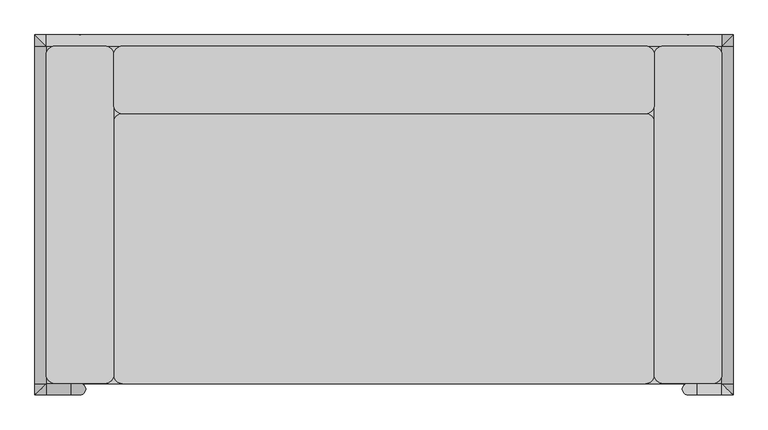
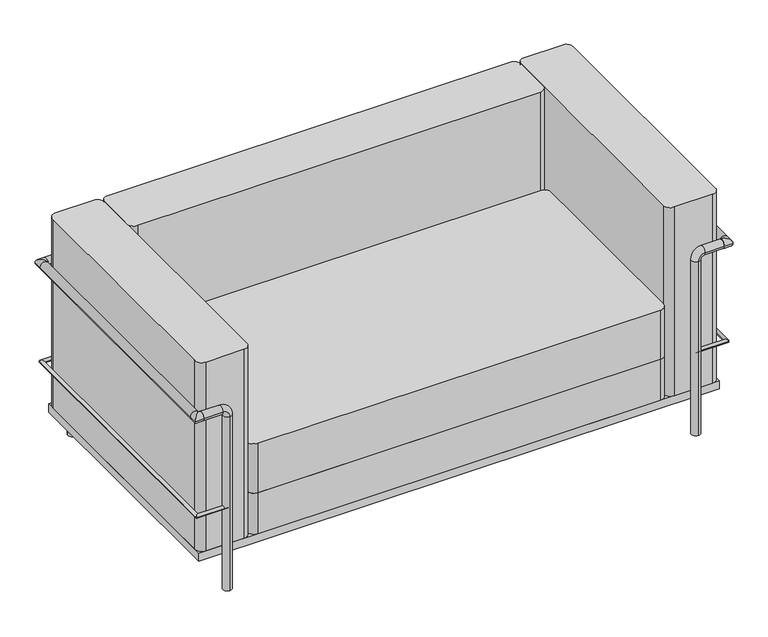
"""IFC4 building model written with IfcOpenShell, lengths in millimetres: furniture geometry, Couch_-_Le_Corbusier_Family_-_1_2_3_seater_9476 : 2 posti."""

from ifc_helpers import new_model, si_unit, point, frame, frame_2d, origin, origin_with_axes, place, context, project, spatial, polyline, circle_curve, ellipse_curve, trimmed, segment, composite_curve, outline, extrude, source, transform, mapped, element, save
from ifc_brep_helpers import plane_surface, cylinder_surface, revolved_surface, advanced_brep


def furniture_86dd63d7(model_context):
    return source(origin(), model_context, "Body", "SolidModel", [
        advanced_brep(
        [(-675.0, -557.5, 250.0), (-675.0, -567.5, 250.0), (-757.5, -557.5, 250.0), (-767.5, -567.5, 250.0), (-757.5, 207.5, 250.0), (-767.5, 217.5, 250.0), (757.5, 207.5, 250.0), (767.5, 217.5, 250.0), (757.5, -557.5, 250.0), (767.5, -567.5, 250.0), (675.0, -557.5, 250.0), (675.0, -567.5, 250.0)],
        [
            (0, 1, circle_curve(frame((-675.0, -562.5, 250.0), z_axis=(1.0, 0.0, 0.0), x_axis=(0.0, -1.0, 0.0)), 5.0)),
            (1, 0, circle_curve(frame((-675.0, -562.5, 250.0), z_axis=(1.0, 0.0, 0.0), x_axis=(0.0, -1.0, 0.0)), 5.0)),
            (0, 2),
            (2, 3, ellipse_curve(frame((-762.5, -562.5, 250.0), z_axis=(0.7071067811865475, -0.7071067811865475, 0.0), x_axis=(0.7071067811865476, 0.7071067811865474, 0.0)), 7.0710678, 5.0)),
            (3, 1),
            (3, 2, ellipse_curve(frame((-762.5, -562.5, 250.0), z_axis=(0.7071067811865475, -0.7071067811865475, 0.0), x_axis=(0.7071067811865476, 0.7071067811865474, 0.0)), 7.0710678, 5.0)),
            (2, 4),
            (4, 5, ellipse_curve(frame((-762.5, 212.5, 250.0), z_axis=(-0.7071067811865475, -0.7071067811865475, 0.0), x_axis=(0.7071067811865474, -0.7071067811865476, 0.0)), 7.0710678, 5.0)),
            (5, 3),
            (5, 4, ellipse_curve(frame((-762.5, 212.5, 250.0), z_axis=(-0.7071067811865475, -0.7071067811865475, 0.0), x_axis=(0.7071067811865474, -0.7071067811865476, 0.0)), 7.0710678, 5.0)),
            (4, 6),
            (6, 7, ellipse_curve(frame((762.5, 212.5, 250.0), z_axis=(-0.7071067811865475, 0.7071067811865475, 0.0), x_axis=(-0.7071067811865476, -0.7071067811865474, 0.0)), 7.0710678, 5.0)),
            (7, 5),
            (7, 6, ellipse_curve(frame((762.5, 212.5, 250.0), z_axis=(-0.7071067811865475, 0.7071067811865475, 0.0), x_axis=(-0.7071067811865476, -0.7071067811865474, 0.0)), 7.0710678, 5.0)),
            (6, 8),
            (8, 9, ellipse_curve(frame((762.5, -562.5, 250.0), z_axis=(0.7071067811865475, 0.7071067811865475, 0.0), x_axis=(-0.7071067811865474, 0.7071067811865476, 0.0)), 7.0710678, 5.0)),
            (9, 7),
            (9, 8, ellipse_curve(frame((762.5, -562.5, 250.0), z_axis=(0.7071067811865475, 0.7071067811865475, 0.0), x_axis=(-0.7071067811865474, 0.7071067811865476, 0.0)), 7.0710678, 5.0)),
            (10, 11, circle_curve(frame((675.0, -562.5, 250.0), z_axis=(-1.0, 0.0, 0.0), x_axis=(0.0, -1.0, 0.0)), 5.0)),
            (11, 10, circle_curve(frame((675.0, -562.5, 250.0), z_axis=(-1.0, 0.0, 0.0), x_axis=(0.0, -1.0, 0.0)), 5.0)),
            (8, 10),
            (11, 9),
        ],
        [
            plane_surface(frame((-675.0, -562.5, 250.0), z_axis=(1.0, 0.0, 0.0), x_axis=(0.0, 0.0, 1.0))),
            cylinder_surface(frame((-675.0, -562.5, 250.0), z_axis=(1.0, 0.0, 0.0), x_axis=(0.0, -1.0, 0.0)), 5.0),
            cylinder_surface(frame((-762.5, -562.5, 250.0), z_axis=(0.0, -1.0, 0.0), x_axis=(-1.0, 0.0, 0.0)), 5.0),
            cylinder_surface(frame((-762.5, 212.5, 250.0), z_axis=(-1.0, 0.0, 0.0), x_axis=(0.0, 1.0, 0.0)), 5.0),
            cylinder_surface(frame((762.5, 212.5, 250.0), z_axis=(0.0, 1.0, 0.0), x_axis=(1.0, 0.0, 0.0)), 5.0),
            plane_surface(frame((675.0, -562.5, 250.0), z_axis=(-1.0, 0.0, 0.0), x_axis=(0.0, 0.0, 1.0))),
            cylinder_surface(frame((762.5, -562.5, 250.0), z_axis=(1.0, 0.0, 0.0), x_axis=(0.0, -1.0, 0.0)), 5.0),
        ],
        [
            (0, [[1, 2]]),
            (1, [[-1, 3, 4, 5]]),
            (1, [[-2, -5, 6, -3]]),
            (2, [[-4, 7, 8, 9]]),
            (2, [[-6, -9, 10, -7]]),
            (3, [[-8, 11, 12, 13]]),
            (3, [[-10, -13, 14, -11]]),
            (4, [[-12, 15, 16, 17]]),
            (4, [[-14, -17, 18, -15]]),
            (5, [[19, 20]]),
            (6, [[-16, 21, -20, 22]]),
            (6, [[-18, -22, -19, -21]]),
        ],
    ),
        extrude(outline(composite_curve([segment(trimmed(circle_curve(frame_2d((675.0, 212.5)), 12.5), [point((687.5, 212.5))], [point((662.5, 212.5))], False, "CARTESIAN"), True, "CONTINUOUS"), segment(trimmed(circle_curve(frame_2d((675.0, 212.5)), 12.5), [point((662.5, 212.5))], [point((687.5, 212.5))], False, "CARTESIAN"), True, "CONTINUOUS")], self_intersect=False)), origin_with_axes(), (0.0, 0.0, 1.0), 550.0),
        extrude(outline(composite_curve([segment(trimmed(circle_curve(frame_2d((-675.0, 212.5)), 12.5), [point((-687.5, 212.5))], [point((-662.5, 212.5))], False, "CARTESIAN"), True, "CONTINUOUS"), segment(trimmed(circle_curve(frame_2d((-675.0, 212.5)), 12.5), [point((-662.5, 212.5))], [point((-687.5, 212.5))], False, "CARTESIAN"), True, "CONTINUOUS")], self_intersect=False)), origin_with_axes(), (0.0, 0.0, 1.0), 550.0),
        extrude(outline(composite_curve([segment(trimmed(circle_curve(frame_2d((212.5, 550.0)), 12.5), [point((200.0, 550.0))], [point((225.0, 550.0))], False, "CARTESIAN"), True, "CONTINUOUS"), segment(trimmed(circle_curve(frame_2d((212.5, 550.0)), 12.5), [point((225.0, 550.0))], [point((200.0, 550.0))], False, "CARTESIAN"), True, "CONTINUOUS")], self_intersect=False)), frame((-750.0, 0.0, 0.0), z_axis=(1.0, 0.0, 0.0), x_axis=(0.0, 1.0, 0.0)), (0.0, 0.0, 1.0), 1500.0),
        advanced_brep(
        [(750.0, 200.0, 550.0), (750.0, 225.0, 550.0), (775.0, 225.0, 550.0), (775.0, 200.0, 550.0), (750.0, -550.0, 550.0), (775.0, -550.0, 550.0), (775.0, -575.0, 550.0), (750.0, -575.0, 550.0)],
        [
            (0, 1, circle_curve(frame((750.0, 212.5, 550.0), z_axis=(-1.0, 0.0, 0.0), x_axis=(0.0, 1.0, 0.0)), 12.5)),
            (1, 0, circle_curve(frame((750.0, 212.5, 550.0), z_axis=(-1.0, 0.0, 0.0), x_axis=(0.0, 1.0, 0.0)), 12.5)),
            (0, 2, ellipse_curve(frame((762.5, 212.5, 550.0), z_axis=(-0.7071067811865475, 0.7071067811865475, 0.0), x_axis=(-0.7071067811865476, -0.7071067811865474, 0.0)), 17.6776695, 12.5)),
            (2, 1),
            (2, 0, ellipse_curve(frame((762.5, 212.5, 550.0), z_axis=(-0.7071067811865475, 0.7071067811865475, 0.0), x_axis=(-0.7071067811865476, -0.7071067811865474, 0.0)), 17.6776695, 12.5)),
            (0, 3, circle_curve(frame((762.5, 200.0, 550.0), z_axis=(0.0, 1.0, 0.0), x_axis=(1.0, 0.0, 0.0)), 12.5)),
            (3, 2),
            (3, 0, circle_curve(frame((762.5, 200.0, 550.0), z_axis=(0.0, 1.0, 0.0), x_axis=(1.0, 0.0, 0.0)), 12.5)),
            (0, 4),
            (4, 5, circle_curve(frame((762.5, -550.0, 550.0), z_axis=(0.0, 1.0, 0.0), x_axis=(1.0, 0.0, 0.0)), 12.5)),
            (5, 3),
            (5, 4, circle_curve(frame((762.5, -550.0, 550.0), z_axis=(0.0, 1.0, 0.0), x_axis=(1.0, 0.0, 0.0)), 12.5)),
            (4, 6, ellipse_curve(frame((762.5, -562.5, 550.0), z_axis=(0.7071067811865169, 0.7071067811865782, 0.0), x_axis=(-0.7071067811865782, 0.7071067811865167, 0.0)), 17.6776695, 12.5)),
            (6, 5),
            (6, 4, ellipse_curve(frame((762.5, -562.5, 550.0), z_axis=(0.7071067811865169, 0.7071067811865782, 0.0), x_axis=(-0.7071067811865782, 0.7071067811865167, 0.0)), 17.6776695, 12.5)),
            (4, 7, circle_curve(frame((750.0, -562.5, 550.0), z_axis=(-1.0, 0.0, 0.0), x_axis=(0.0, -1.0, 0.0)), 12.5)),
            (7, 4, circle_curve(frame((750.0, -562.5, 550.0), z_axis=(-1.0, 0.0, 0.0), x_axis=(0.0, -1.0, 0.0)), 12.5)),
            (7, 6),
        ],
        [
            plane_surface(frame((750.0, 212.5, 550.0), z_axis=(-1.0, 0.0, 0.0), x_axis=(0.0, 0.0, 1.0))),
            cylinder_surface(frame((750.0, 212.5, 550.0), z_axis=(-1.0, 0.0, 0.0), x_axis=(0.0, 1.0, 0.0)), 12.5),
            cylinder_surface(frame((762.5, 212.5, 550.0), z_axis=(0.0, 1.0, 0.0), x_axis=(1.0, 0.0, 0.0)), 12.5),
            cylinder_surface(frame((762.5, 200.0, 550.0), z_axis=(0.0, 1.0, 0.0), x_axis=(1.0, 0.0, 0.0)), 12.5),
            cylinder_surface(frame((762.5, -550.0, 550.0), z_axis=(0.0, 1.0, 0.0), x_axis=(1.0, 0.0, 0.0)), 12.5),
            plane_surface(frame((750.0, -562.5, 550.0), z_axis=(-1.0, 0.0, 0.0), x_axis=(0.0, 0.0, 1.0))),
            cylinder_surface(frame((762.5, -562.5, 550.0), z_axis=(1.0, 0.0, 0.0), x_axis=(0.0, -1.0, 0.0)), 12.5),
        ],
        [
            (0, [[1, 2]]),
            (1, [[-1, 3, 4]]),
            (1, [[-2, -4, 5]]),
            (2, [[-3, 6, 7]]),
            (2, [[-5, -7, 8]]),
            (3, [[-6, 9, 10, 11]]),
            (3, [[-8, -11, 12, -9]]),
            (4, [[-10, 13, 14]]),
            (4, [[-12, -14, 15]]),
            (5, [[16, 17]]),
            (6, [[-13, -17, 18]]),
            (6, [[-15, -18, -16]]),
        ],
    ),
        advanced_brep(
        [(-750.0, 225.0, 550.0), (-750.0, 200.0, 550.0), (-775.0, 225.0, 550.0), (-775.0, 200.0, 550.0), (-775.0, -550.0, 550.0), (-750.0, -550.0, 550.0), (-775.0, -575.0, 550.0), (-750.0, -575.0, 550.0)],
        [
            (0, 1, circle_curve(frame((-750.0, 212.5, 550.0), z_axis=(1.0, 0.0, 0.0), x_axis=(0.0, -1.0, 0.0)), 12.5)),
            (1, 0, circle_curve(frame((-750.0, 212.5, 550.0), z_axis=(1.0, 0.0, 0.0), x_axis=(0.0, -1.0, 0.0)), 12.5)),
            (0, 2),
            (2, 1, ellipse_curve(frame((-762.5, 212.5, 550.0), z_axis=(0.7071067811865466, 0.7071067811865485, 0.0), x_axis=(0.7071067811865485, -0.7071067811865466, 0.0)), 17.6776695, 12.5)),
            (1, 2, ellipse_curve(frame((-762.5, 212.5, 550.0), z_axis=(0.7071067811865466, 0.7071067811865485, 0.0), x_axis=(0.7071067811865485, -0.7071067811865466, 0.0)), 17.6776695, 12.5)),
            (2, 3),
            (3, 1, circle_curve(frame((-762.5, 200.0, 550.0), z_axis=(0.0, 1.0, 0.0), x_axis=(1.0, 0.0, 0.0)), 12.5)),
            (1, 3, circle_curve(frame((-762.5, 200.0, 550.0), z_axis=(0.0, 1.0, 0.0), x_axis=(1.0, 0.0, 0.0)), 12.5)),
            (3, 4),
            (4, 5, circle_curve(frame((-762.5, -550.0, 550.0), z_axis=(0.0, 1.0, 0.0), x_axis=(1.0, 0.0, 0.0)), 12.5)),
            (5, 1),
            (5, 4, circle_curve(frame((-762.5, -550.0, 550.0), z_axis=(0.0, 1.0, 0.0), x_axis=(1.0, 0.0, 0.0)), 12.5)),
            (4, 6),
            (6, 5, ellipse_curve(frame((-762.5, -562.5, 550.0), z_axis=(-0.7071067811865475, 0.7071067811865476, 0.0), x_axis=(0.7071067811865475, 0.7071067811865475, 0.0)), 17.6776695, 12.5)),
            (5, 6, ellipse_curve(frame((-762.5, -562.5, 550.0), z_axis=(-0.7071067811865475, 0.7071067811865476, 0.0), x_axis=(0.7071067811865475, 0.7071067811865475, 0.0)), 17.6776695, 12.5)),
            (7, 5, circle_curve(frame((-750.0, -562.5, 550.0), z_axis=(1.0, 0.0, 0.0), x_axis=(0.0, 1.0, 0.0)), 12.5)),
            (5, 7, circle_curve(frame((-750.0, -562.5, 550.0), z_axis=(1.0, 0.0, 0.0), x_axis=(0.0, 1.0, 0.0)), 12.5)),
            (6, 7),
        ],
        [
            plane_surface(frame((-750.0, 212.5, 550.0), z_axis=(1.0, 0.0, 0.0), x_axis=(0.0, 0.0, 1.0))),
            cylinder_surface(frame((-750.0, 212.5, 550.0), z_axis=(1.0, 0.0, 0.0), x_axis=(0.0, -1.0, 0.0)), 12.5),
            cylinder_surface(frame((-762.5, 212.5, 550.0), z_axis=(0.0, 1.0, 0.0), x_axis=(1.0, 0.0, 0.0)), 12.5),
            cylinder_surface(frame((-762.5, 200.0, 550.0), z_axis=(0.0, 1.0, 0.0), x_axis=(1.0, 0.0, 0.0)), 12.5),
            cylinder_surface(frame((-762.5, -550.0, 550.0), z_axis=(0.0, 1.0, 0.0), x_axis=(1.0, 0.0, 0.0)), 12.5),
            plane_surface(frame((-750.0, -562.5, 550.0), z_axis=(1.0, 0.0, 0.0), x_axis=(0.0, 0.0, 1.0))),
            cylinder_surface(frame((-762.5, -562.5, 550.0), z_axis=(-1.0, 0.0, 0.0), x_axis=(0.0, 1.0, 0.0)), 12.5),
        ],
        [
            (0, [[1, 2]]),
            (1, [[-1, 3, 4]]),
            (1, [[-2, 5, -3]]),
            (2, [[-4, 6, 7]]),
            (2, [[-5, 8, -6]]),
            (3, [[-7, 9, 10, 11]]),
            (3, [[-8, -11, 12, -9]]),
            (4, [[-10, 13, 14]]),
            (4, [[-12, 15, -13]]),
            (5, [[16, 17]]),
            (6, [[-14, 18, -17]]),
            (6, [[-15, -16, -18]]),
        ],
    ),
        advanced_brep(
        [(750.0, -550.0, 550.0), (750.0, -575.0, 550.0), (695.0, -550.0, 550.0), (695.0, -575.0, 550.0), (675.0, -575.0, 530.0), (675.0, -550.0, 530.0), (675.0, -550.0, 0.0), (675.0, -575.0, 0.0)],
        [
            (0, 1, circle_curve(frame((750.0, -562.5, 550.0), z_axis=(1.0, 0.0, 0.0), x_axis=(0.0, -1.0, 0.0)), 12.5)),
            (1, 0, circle_curve(frame((750.0, -562.5, 550.0), z_axis=(1.0, 0.0, 0.0), x_axis=(0.0, -1.0, 0.0)), 12.5)),
            (0, 2),
            (2, 3, circle_curve(frame((695.0, -562.5, 550.0), z_axis=(1.0, 0.0, 0.0), x_axis=(0.0, -1.0, 0.0)), 12.5)),
            (3, 1),
            (3, 2, circle_curve(frame((695.0, -562.5, 550.0), z_axis=(1.0, 0.0, 0.0), x_axis=(0.0, -1.0, 0.0)), 12.5)),
            (4, 3, circle_curve(frame((695.0, -575.0, 530.0), z_axis=(0.0, 1.0, 0.0), x_axis=(0.0, 0.0, 1.0)), 20.0)),
            (2, 5, circle_curve(frame((695.0, -550.0, 530.0), z_axis=(0.0, -1.0, 0.0), x_axis=(0.0, 0.0, 1.0)), 20.0)),
            (5, 4, circle_curve(frame((675.0, -562.5, 530.0), z_axis=(0.0, 0.0, 1.0), x_axis=(0.0, -1.0, 0.0)), 12.5)),
            (4, 5, circle_curve(frame((675.0, -562.5, 530.0), z_axis=(0.0, 0.0, 1.0), x_axis=(0.0, -1.0, 0.0)), 12.5)),
            (6, 7, circle_curve(frame((675.0, -562.5, 0.0), z_axis=(0.0, 0.0, -1.0), x_axis=(0.0, -1.0, 0.0)), 12.5)),
            (7, 6, circle_curve(frame((675.0, -562.5, 0.0), z_axis=(0.0, 0.0, -1.0), x_axis=(0.0, -1.0, 0.0)), 12.5)),
            (5, 6),
            (7, 4),
        ],
        [
            plane_surface(frame((750.0, -562.5, 550.0), z_axis=(1.0, 0.0, 0.0), x_axis=(0.0, -1.0, 0.0))),
            cylinder_surface(frame((750.0, -562.5, 550.0), z_axis=(1.0, 0.0, 0.0), x_axis=(0.0, -1.0, 0.0)), 12.5),
            revolved_surface(trimmed(ellipse_curve(frame((695.0, -562.5, 550.0), z_axis=(1.0, 0.0, 0.0), x_axis=(0.0, -1.0, 0.0)), 12.5, 12.5), [point((695.0, -550.0, 550.0))], [point((695.0, -575.0, 550.0))], True, "CARTESIAN"), (695.0, -562.5, 530.0), (0.0, -1.0, 0.0)),
            revolved_surface(trimmed(ellipse_curve(frame((695.0, -562.5, 550.0), z_axis=(1.0, 0.0, 0.0), x_axis=(0.0, -1.0, 0.0)), 12.5, 12.5), [point((695.0, -575.0, 550.0))], [point((695.0, -550.0, 550.0))], True, "CARTESIAN"), (695.0, -562.5, 530.0), (0.0, -1.0, 0.0)),
            plane_surface(frame((675.0, -562.5, 0.0), z_axis=(0.0, 0.0, -1.0), x_axis=(0.0, -1.0, 0.0))),
            cylinder_surface(frame((675.0, -562.5, 530.0), z_axis=(0.0, 0.0, 1.0), x_axis=(0.0, -1.0, 0.0)), 12.5),
        ],
        [
            (0, [[1, 2]]),
            (1, [[-1, 3, 4, 5]]),
            (1, [[-2, -5, 6, -3]]),
            (2, [[7, -4, 8, 9]]),
            (3, [[-8, -6, -7, 10]]),
            (4, [[11, 12]]),
            (5, [[-9, 13, -12, 14]]),
            (5, [[-10, -14, -11, -13]]),
        ],
    ),
        advanced_brep(
        [(-750.0, -550.0, 550.0), (-750.0, -575.0, 550.0), (-695.0, -550.0, 550.0), (-695.0, -575.0, 550.0), (-675.0, -575.0, 530.0), (-675.0, -550.0, 530.0), (-675.0, -550.0, 0.0), (-675.0, -575.0, 0.0)],
        [
            (0, 1, circle_curve(frame((-750.0, -562.5, 550.0), z_axis=(-1.0, 0.0, 0.0), x_axis=(0.0, -1.0, 0.0)), 12.5)),
            (1, 0, circle_curve(frame((-750.0, -562.5, 550.0), z_axis=(-1.0, 0.0, 0.0), x_axis=(0.0, -1.0, 0.0)), 12.5)),
            (0, 2),
            (2, 3, circle_curve(frame((-695.0, -562.5, 550.0), z_axis=(-1.0, 0.0, 0.0), x_axis=(0.0, -1.0, 0.0)), 12.5)),
            (3, 1),
            (3, 2, circle_curve(frame((-695.0, -562.5, 550.0), z_axis=(-1.0, 0.0, 0.0), x_axis=(0.0, -1.0, 0.0)), 12.5)),
            (4, 3, circle_curve(frame((-695.0, -575.0, 530.0), z_axis=(0.0, -1.0, 0.0), x_axis=(0.0, 0.0, 1.0)), 20.0)),
            (2, 5, circle_curve(frame((-695.0, -550.0, 530.0), z_axis=(0.0, 1.0, 0.0), x_axis=(0.0, 0.0, 1.0)), 20.0)),
            (5, 4, circle_curve(frame((-675.0, -562.5, 530.0), z_axis=(0.0, 0.0, 1.0), x_axis=(0.0, -1.0, 0.0)), 12.5)),
            (4, 5, circle_curve(frame((-675.0, -562.5, 530.0), z_axis=(0.0, 0.0, 1.0), x_axis=(0.0, -1.0, 0.0)), 12.5)),
            (6, 7, circle_curve(frame((-675.0, -562.5, 0.0), z_axis=(0.0, 0.0, -1.0), x_axis=(0.0, -1.0, 0.0)), 12.5)),
            (7, 6, circle_curve(frame((-675.0, -562.5, 0.0), z_axis=(0.0, 0.0, -1.0), x_axis=(0.0, -1.0, 0.0)), 12.5)),
            (5, 6),
            (7, 4),
        ],
        [
            plane_surface(frame((-750.0, -562.5, 550.0), z_axis=(-1.0, 0.0, 0.0), x_axis=(0.0, -1.0, 0.0))),
            cylinder_surface(frame((-750.0, -562.5, 550.0), z_axis=(-1.0, 0.0, 0.0), x_axis=(0.0, -1.0, 0.0)), 12.5),
            revolved_surface(trimmed(ellipse_curve(frame((-695.0, -562.5, 550.0), z_axis=(-1.0, 0.0, 0.0), x_axis=(0.0, -1.0, 0.0)), 12.5, 12.5), [point((-695.0, -550.0, 550.0))], [point((-695.0, -575.0, 550.0))], True, "CARTESIAN"), (-695.0, -562.5, 530.0), (0.0, 1.0, 0.0)),
            revolved_surface(trimmed(ellipse_curve(frame((-695.0, -562.5, 550.0), z_axis=(-1.0, 0.0, 0.0), x_axis=(0.0, -1.0, 0.0)), 12.5, 12.5), [point((-695.0, -575.0, 550.0))], [point((-695.0, -550.0, 550.0))], True, "CARTESIAN"), (-695.0, -562.5, 530.0), (0.0, 1.0, 0.0)),
            plane_surface(frame((-675.0, -562.5, 0.0), z_axis=(0.0, 0.0, -1.0), x_axis=(0.0, -1.0, 0.0))),
            cylinder_surface(frame((-675.0, -562.5, 530.0), z_axis=(0.0, 0.0, 1.0), x_axis=(0.0, -1.0, 0.0)), 12.5),
        ],
        [
            (0, [[1, 2]]),
            (1, [[-1, 3, 4, 5]]),
            (1, [[-2, -5, 6, -3]]),
            (2, [[7, -4, 8, 9]]),
            (3, [[-8, -6, -7, 10]]),
            (4, [[11, 12]]),
            (5, [[-9, 13, -12, 14]]),
            (5, [[-10, -14, -11, -13]]),
        ],
    ),
        extrude(outline(composite_curve([segment(polyline([(-600.0, -530.0), (-600.0, 30.0)]), True, "CONTINUOUS"), segment(trimmed(circle_curve(frame_2d((-580.0, 30.0)), 20.0), [point((-600.0, 30.0))], [point((-580.0, 50.0))], False, "CARTESIAN"), True, "CONTINUOUS"), segment(polyline([(-580.0, 50.0), (580.0, 50.0)]), True, "CONTINUOUS"), segment(trimmed(circle_curve(frame_2d((580.0, 30.0)), 20.0), [point((580.0, 50.0))], [point((600.0, 30.0))], False, "CARTESIAN"), True, "CONTINUOUS"), segment(polyline([(600.0, 30.0), (600.0, -530.0)]), True, "CONTINUOUS"), segment(trimmed(circle_curve(frame_2d((580.0, -530.0)), 20.0), [point((600.0, -530.0))], [point((580.0, -550.0))], False, "CARTESIAN"), True, "CONTINUOUS"), segment(polyline([(580.0, -550.0), (-580.0, -550.0)]), True, "CONTINUOUS"), segment(trimmed(circle_curve(frame_2d((-580.0, -530.0)), 20.0), [point((-580.0, -550.0))], [point((-600.0, -530.0))], False, "CARTESIAN"), True, "CONTINUOUS")], self_intersect=False)), frame((0.0, 0.0, 250.0), z_axis=(0.0, 0.0, 1.0), x_axis=(1.0, 0.0, 0.0)), (0.0, 0.0, 1.0), 150.0),
        extrude(outline(composite_curve([segment(polyline([(-600.0, -530.0), (-600.0, 30.0)]), True, "CONTINUOUS"), segment(trimmed(circle_curve(frame_2d((-580.0, 30.0)), 20.0), [point((-600.0, 30.0))], [point((-580.0, 50.0))], False, "CARTESIAN"), True, "CONTINUOUS"), segment(polyline([(-580.0, 50.0), (580.0, 50.0)]), True, "CONTINUOUS"), segment(trimmed(circle_curve(frame_2d((580.0, 30.0)), 20.0), [point((580.0, 50.0))], [point((600.0, 30.0))], False, "CARTESIAN"), True, "CONTINUOUS"), segment(polyline([(600.0, 30.0), (600.0, -530.0)]), True, "CONTINUOUS"), segment(trimmed(circle_curve(frame_2d((580.0, -530.0)), 20.0), [point((600.0, -530.0))], [point((580.0, -550.0))], False, "CARTESIAN"), True, "CONTINUOUS"), segment(polyline([(580.0, -550.0), (-580.0, -550.0)]), True, "CONTINUOUS"), segment(trimmed(circle_curve(frame_2d((-580.0, -530.0)), 20.0), [point((-580.0, -550.0))], [point((-600.0, -530.0))], False, "CARTESIAN"), True, "CONTINUOUS")], self_intersect=False)), frame((0.0, 0.0, 125.0), z_axis=(0.0, 0.0, 1.0), x_axis=(1.0, 0.0, 0.0)), (0.0, 0.0, 1.0), 125.0),
        extrude(outline(composite_curve([segment(polyline([(-580.0, 200.0), (580.0, 200.0)]), True, "CONTINUOUS"), segment(trimmed(circle_curve(frame_2d((580.0, 180.0)), 20.0), [point((580.0, 200.0))], [point((600.0, 180.0))], False, "CARTESIAN"), True, "CONTINUOUS"), segment(polyline([(600.0, 180.0), (600.0, 70.0)]), True, "CONTINUOUS"), segment(trimmed(circle_curve(frame_2d((580.0, 70.0)), 20.0), [point((600.0, 70.0))], [point((580.0, 50.0))], False, "CARTESIAN"), True, "CONTINUOUS"), segment(polyline([(580.0, 50.0), (-580.0, 50.0)]), True, "CONTINUOUS"), segment(trimmed(circle_curve(frame_2d((-580.0, 70.0)), 20.0), [point((-580.0, 50.0))], [point((-600.0, 70.0))], False, "CARTESIAN"), True, "CONTINUOUS"), segment(polyline([(-600.0, 70.0), (-600.0, 180.0)]), True, "CONTINUOUS"), segment(trimmed(circle_curve(frame_2d((-580.0, 180.0)), 20.0), [point((-600.0, 180.0))], [point((-580.0, 200.0))], False, "CARTESIAN"), True, "CONTINUOUS")], self_intersect=False)), frame((0.0, 0.0, 125.0), z_axis=(0.0, 0.0, 1.0), x_axis=(1.0, 0.0, 0.0)), (0.0, 0.0, 1.0), 575.0),
        extrude(outline(composite_curve([segment(trimmed(circle_curve(frame_2d((730.0, -530.0)), 20.0), [point((750.0, -530.0))], [point((730.0, -550.0))], False, "CARTESIAN"), True, "CONTINUOUS"), segment(polyline([(730.0, -550.0), (620.0, -550.0)]), True, "CONTINUOUS"), segment(trimmed(circle_curve(frame_2d((620.0, -530.0)), 20.0), [point((620.0, -550.0))], [point((600.0, -530.0))], False, "CARTESIAN"), True, "CONTINUOUS"), segment(polyline([(600.0, -530.0), (600.0, 180.0)]), True, "CONTINUOUS"), segment(trimmed(circle_curve(frame_2d((620.0, 180.0)), 20.0), [point((600.0, 180.0))], [point((620.0, 200.0))], False, "CARTESIAN"), True, "CONTINUOUS"), segment(polyline([(620.0, 200.0), (730.0, 200.0)]), True, "CONTINUOUS"), segment(trimmed(circle_curve(frame_2d((730.0, 180.0)), 20.0), [point((730.0, 200.0))], [point((750.0, 180.0))], False, "CARTESIAN"), True, "CONTINUOUS"), segment(polyline([(750.0, 180.0), (750.0, -530.0)]), True, "CONTINUOUS")], self_intersect=False)), frame((0.0, 0.0, 125.0), z_axis=(0.0, 0.0, 1.0), x_axis=(1.0, 0.0, 0.0)), (0.0, 0.0, 1.0), 575.0),
        extrude(outline(composite_curve([segment(polyline([(-750.0, -530.0), (-750.0, 180.0)]), True, "CONTINUOUS"), segment(trimmed(circle_curve(frame_2d((-730.0, 180.0)), 20.0), [point((-750.0, 180.0))], [point((-730.0, 200.0))], False, "CARTESIAN"), True, "CONTINUOUS"), segment(polyline([(-730.0, 200.0), (-620.0, 200.0)]), True, "CONTINUOUS"), segment(trimmed(circle_curve(frame_2d((-620.0, 180.0)), 20.0), [point((-620.0, 200.0))], [point((-600.0, 180.0))], False, "CARTESIAN"), True, "CONTINUOUS"), segment(polyline([(-600.0, 180.0), (-600.0, -530.0)]), True, "CONTINUOUS"), segment(trimmed(circle_curve(frame_2d((-620.0, -530.0)), 20.0), [point((-600.0, -530.0))], [point((-620.0, -550.0))], False, "CARTESIAN"), True, "CONTINUOUS"), segment(polyline([(-620.0, -550.0), (-730.0, -550.0)]), True, "CONTINUOUS"), segment(trimmed(circle_curve(frame_2d((-730.0, -530.0)), 20.0), [point((-730.0, -550.0))], [point((-750.0, -530.0))], False, "CARTESIAN"), True, "CONTINUOUS")], self_intersect=False)), frame((0.0, 0.0, 125.0), z_axis=(0.0, 0.0, 1.0), x_axis=(1.0, 0.0, 0.0)), (0.0, 0.0, 1.0), 575.0),
        extrude(outline(polyline([(-750.0, 200.0), (750.0, 200.0), (750.0, -550.0), (-750.0, -550.0), (-750.0, 200.0)])), frame((0.0, 0.0, 100.0), z_axis=(0.0, 0.0, 1.0), x_axis=(1.0, 0.0, 0.0)), (0.0, 0.0, 1.0), 25.0),
    ])


if __name__ == "__main__":
    model = new_model("IFC4")
    model_context = context("Model", 3, world=origin())
    ifc_project = project(units=[si_unit("LENGTHUNIT", "METRE", prefix="MILLI")], contexts=[model_context])
    site = spatial("IfcSite", under=ifc_project)
    building = spatial("IfcBuilding", under=site)
    placement = place(None, origin())
    furniture_shape = furniture_86dd63d7(model_context)
    element("IfcFurniture", 1, ObjectType="Couch_-_Le_Corbusier_Family_-_1_2_3_seater_9476 : 2 posti", at=placement, inside=building, context=model_context, shape_type="MappedRepresentation", body=[
        mapped(furniture_shape, transform((0.0, 0.0, 0.0), x_axis=(1.0, 0.0, 0.0), y_axis=(0.0, 1.0, 0.0), z_axis=(0.0, 0.0, 1.0))),
    ])
    save(model, "model.ifc")
